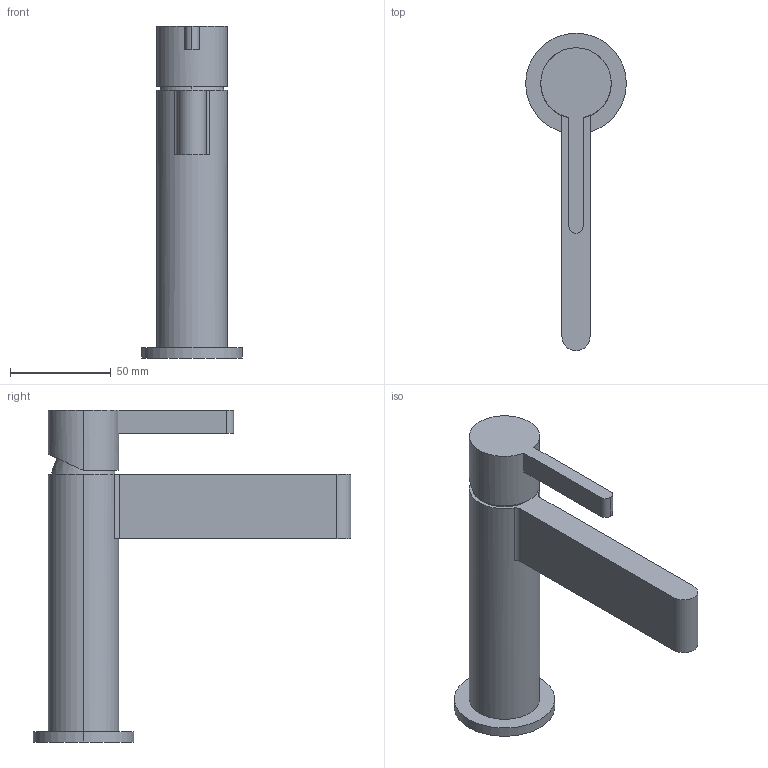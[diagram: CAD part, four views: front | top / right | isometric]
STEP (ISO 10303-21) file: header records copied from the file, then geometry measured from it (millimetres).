
FILE_DESCRIPTION(('FreeCAD Model'),'2;1');
FILE_NAME('Open CASCADE Shape Model','2024-07-22T23:03:50',('Author'),( ''),'Open CASCADE STEP processor 7.6','FreeCAD','Unknown');
FILE_SCHEMA(('AUTOMOTIVE_DESIGN { 1 0 10303 214 1 1 1 1 }'));
Length unit declared in the file: millimetre
Products named in the file (3): TopLevelAssembly; Wyciąganie001; Połączona geometria bryłowa
Assembly tree (2 placements, depth 2):
  TopLevelAssembly
    Wyciąganie001
    Połączona geometria bryłowa
Bounding box: 50 x 157.76 x 164.8 mm (x, y, z)
Volume: 218250.6 mm3; surface area: 37099.2 mm2
Topology: 2 solids, 2 shells, 26 faces, 61 edges, 40 vertices
Faces by surface type: plane 13, cylinder 11, bspline 2
Entity records: 865 total; most frequent: CARTESIAN_POINT 180, DIRECTION 145, ORIENTED_EDGE 122, EDGE_CURVE 61, AXIS2_PLACEMENT_3D 59, VERTEX_POINT 40, CIRCLE 31, FACE_BOUND 27
